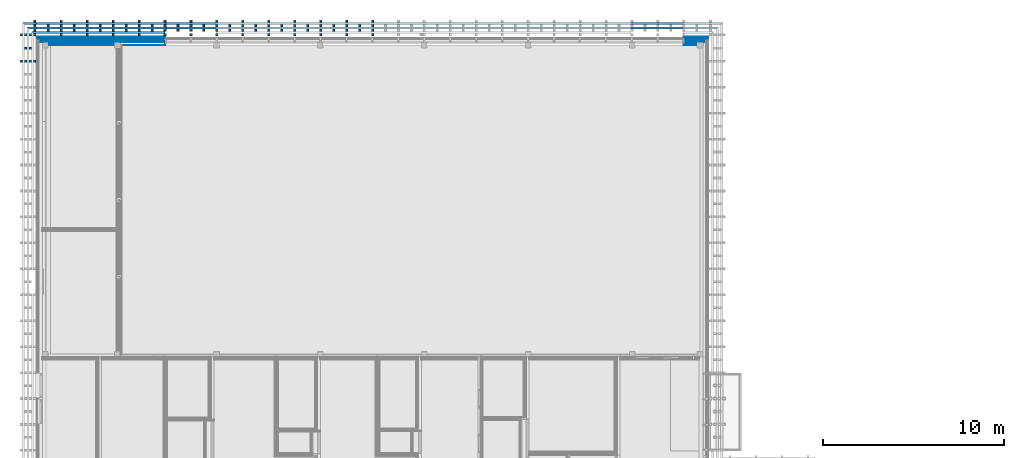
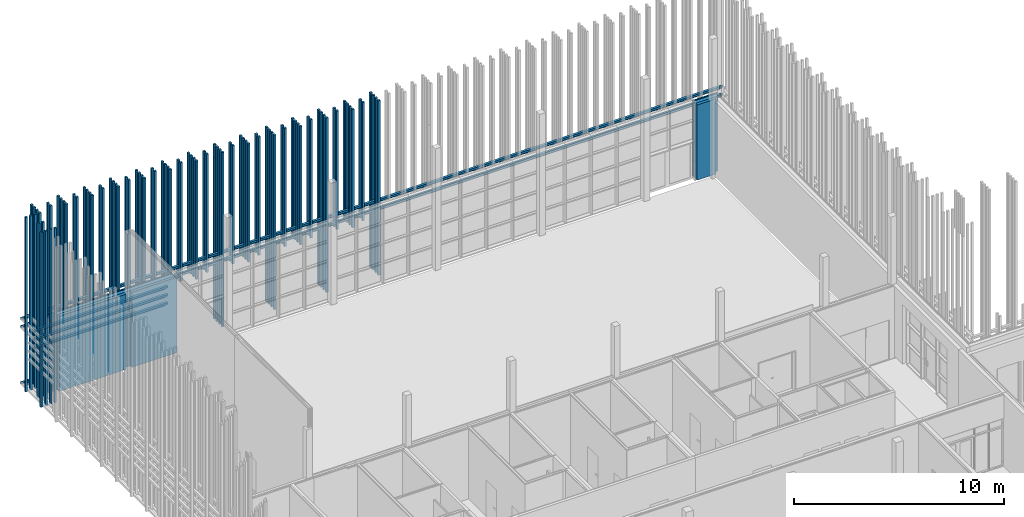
# One storey, part 231 of 260: 36 discrete accessories, 6 building element parts, 1 opening, 1 element without a shape of its own.
"""IFC2X3 building model written with IfcOpenShell, lengths in millimetres."""

from ifc_helpers import new_model, entity, si_unit, converted_unit, derived_unit, money_unit, direction, frame, origin_with_axes, place, context, subcontext, project, spatial, faceted_brep, material, material_list, type_object, element, aggregate, save


model = new_model("IFC2X3")

# Units and contexts
model_context = context("Model", 3, precision=0.01, world=origin_with_axes(), true_north=direction((0.0, 1.0)))
body_context = subcontext(model_context, "Body", "Model", "MODEL_VIEW")
ifc_project = project(units=[si_unit("LENGTHUNIT", "METRE", prefix="MILLI"), si_unit("AREAUNIT", "SQUARE_METRE"), si_unit("VOLUMEUNIT", "CUBIC_METRE"), converted_unit("PLANEANGLEUNIT", "DEGREE", entity("IfcPlaneAngleMeasure", 0.0174532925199), si_unit("PLANEANGLEUNIT", "RADIAN"), dimensions=[0, 0, 0, 0, 0, 0, 0]), money_unit("EUR"), converted_unit("TIMEUNIT", "Year", entity("IfcTimeMeasure", 31556926.0), si_unit("TIMEUNIT", "SECOND"), dimensions=[0, 0, 1, 0, 0, 0, 0]), si_unit("MASSUNIT", "GRAM", prefix="KILO"), si_unit("THERMODYNAMICTEMPERATUREUNIT", "DEGREE_CELSIUS"), si_unit("LUMINOUSINTENSITYUNIT", "LUMEN"), si_unit("ENERGYUNIT", "JOULE", prefix="MEGA"), derived_unit("THERMALCONDUCTANCEUNIT", [(si_unit("POWERUNIT", "WATT"), 1), (si_unit("LENGTHUNIT", "METRE"), -1), (si_unit("THERMODYNAMICTEMPERATUREUNIT", "KELVIN"), -1)]), derived_unit("SPECIFICHEATCAPACITYUNIT", [(si_unit("ENERGYUNIT", "JOULE"), 1), (si_unit("MASSUNIT", "GRAM", prefix="KILO"), -1), (si_unit("THERMODYNAMICTEMPERATUREUNIT", "KELVIN"), -1)]), derived_unit("MASSDENSITYUNIT", [(si_unit("MASSUNIT", "GRAM", prefix="KILO"), 1), (si_unit("VOLUMEUNIT", "CUBIC_METRE"), -1)])], contexts=[model_context])

# Site, building, storey
site_placement = place(None, origin_with_axes())
site = spatial("IfcSite", under=ifc_project, at=site_placement, Name="Kolde pst 67a", CompositionType="ELEMENT")
building_placement = place(site_placement, origin_with_axes())
building = spatial("IfcBuilding", under=site, at=building_placement, Name="Riigigümnaasium", CompositionType="ELEMENT")
storey_placement = place(building_placement, origin_with_axes())
storey = spatial("IfcBuildingStorey", under=building, at=storey_placement, Name="1. korrus", CompositionType="ELEMENT", Elevation=0.0)

# Discrete accessories
ifc_material_1 = material(Name="_VÄLISVIIMISTLUS - sõrmjätkatud puitprussid 120x115mm, liitekohad vähemärgatavad, Platowood sõrmjätkatud kuusk või samaväärne; eeltöödeldud tuletõkkevõõbaga, tuletundlikkus B-s1, d0, Woodsafe Exterior WFX™ või samaväärne; kinnitused vastavalt EK osale")
ifc_material_list_1 = material_list([ifc_material_1, ifc_material_1, ifc_material_1, ifc_material_1])
discrete_accessory_type_1 = type_object("IfcDiscreteAccessoryType", Name="120 4-ne vertikaalne 870 x 115")
for number, where, z_axis, x_axis in (
    (1, (15392.4999347, 84790.0013546, 280.0), (0.0, 0.0, 1.0), (-2.93429595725e-05, -0.999999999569, 0.0)),
    (2, (-309.995745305, 84875.4991965, 280.0), (0.0, 0.0, 1.0), (0.999999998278, -5.86859191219e-05, 0.0)),
    (3, (-310.003213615, 83412.2224198, 280.0), (0.0, 0.0, 1.0), (0.999999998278, -5.86859191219e-05, 0.0)),
    (4, (18252.4999347, 84790.0013546, 280.0), (0.0, 0.0, 1.0), (-2.93429595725e-05, -0.999999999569, 0.0)),
):
    element("IfcDiscreteAccessory", number, at=place(storey_placement, frame(where, z_axis=z_axis, x_axis=x_axis)), inside=storey, type_object=discrete_accessory_type_1, material=ifc_material_list_1, Name="Päikesevarjestus", context=body_context, shape_type="Brep", body=[
        faceted_brep([(-133.0, -70.0, 0.0), (-13.0, -70.0, 0.0), (-13.0, -70.0, 10140.0), (-133.0, -70.0, 10140.0), (-133.0, 45.0, 0.0), (-13.0, 45.0, 0.0), (-13.0, 45.0, 10140.0), (-133.0, 45.0, 10140.0)], [[[0, 1, 2, 3]], [[0, 4, 5, 1]], [[1, 5, 6, 2]], [[3, 2, 6, 7]], [[4, 0, 3, 7]], [[5, 4, 7, 6]]]),
        faceted_brep([(-383.0, -70.0, 0.0), (-263.0, -70.0, 0.0), (-263.0, -70.0, 10140.0), (-383.0, -70.0, 10140.0), (-383.0, 45.0, 0.0), (-263.0, 45.0, 0.0), (-263.0, 45.0, 10140.0), (-383.0, 45.0, 10140.0)], [[[0, 1, 2, 3]], [[0, 4, 5, 1]], [[1, 5, 6, 2]], [[3, 2, 6, 7]], [[4, 0, 3, 7]], [[5, 4, 7, 6]]]),
        faceted_brep([(-633.0, -70.0, 0.0), (-513.0, -70.0, 0.0), (-513.0, -70.0, 10140.0), (-633.0, -70.0, 10140.0), (-633.0, 45.0, 0.0), (-513.0, 45.0, 0.0), (-513.0, 45.0, 10140.0), (-633.0, 45.0, 10140.0)], [[[0, 1, 2, 3]], [[0, 4, 5, 1]], [[1, 5, 6, 2]], [[3, 2, 6, 7]], [[4, 0, 3, 7]], [[5, 4, 7, 6]]]),
        faceted_brep([(-883.0, -70.0, 0.0), (-763.0, -70.0, 0.0), (-763.0, -70.0, 10140.0), (-883.0, -70.0, 10140.0), (-883.0, 45.0, 0.0), (-763.0, 45.0, 0.0), (-763.0, 45.0, 10140.0), (-883.0, 45.0, 10140.0)], [[[0, 1, 2, 3]], [[0, 4, 5, 1]], [[1, 5, 6, 2]], [[3, 2, 6, 7]], [[4, 0, 3, 7]], [[5, 4, 7, 6]]]),
    ])
for number, where, z_axis, x_axis in (
    (5, (16822.4999347, 84790.0013546, 3540.00014213), (0.0, 0.0, 1.0), (-2.93429595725e-05, -0.999999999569, 0.0)),
    (6, (13962.4999777, 84790.0013546, 3540.00014213), (0.0, 0.0, 1.0), (-2.93429595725e-05, -0.999999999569, 0.0)),
):
    element("IfcDiscreteAccessory", number, at=place(storey_placement, frame(where, z_axis=z_axis, x_axis=x_axis)), inside=storey, type_object=discrete_accessory_type_1, material=ifc_material_list_1, Name="Päikesevarjestus", context=body_context, shape_type="Brep", body=[
        faceted_brep([(-133.0, -70.0, 0.0), (-13.0, -70.0, 0.0), (-13.0, -70.0, 6879.99985787), (-133.0, -70.0, 6879.99985787), (-133.0, 45.0, 0.0), (-13.0, 45.0, 0.0), (-13.0, 45.0, 6879.99985787), (-133.0, 45.0, 6879.99985787)], [[[0, 1, 2, 3]], [[0, 4, 5, 1]], [[1, 5, 6, 2]], [[3, 2, 6, 7]], [[4, 0, 3, 7]], [[5, 4, 7, 6]]]),
        faceted_brep([(-383.0, -70.0, 0.0), (-263.0, -70.0, 0.0), (-263.0, -70.0, 6879.99985787), (-383.0, -70.0, 6879.99985787), (-383.0, 45.0, 0.0), (-263.0, 45.0, 0.0), (-263.0, 45.0, 6879.99985787), (-383.0, 45.0, 6879.99985787)], [[[0, 1, 2, 3]], [[0, 4, 5, 1]], [[1, 5, 6, 2]], [[3, 2, 6, 7]], [[4, 0, 3, 7]], [[5, 4, 7, 6]]]),
        faceted_brep([(-633.0, -70.0, 0.0), (-513.0, -70.0, 0.0), (-513.0, -70.0, 6879.99985787), (-633.0, -70.0, 6879.99985787), (-633.0, 45.0, 0.0), (-513.0, 45.0, 0.0), (-513.0, 45.0, 6879.99985787), (-633.0, 45.0, 6879.99985787)], [[[0, 1, 2, 3]], [[0, 4, 5, 1]], [[1, 5, 6, 2]], [[3, 2, 6, 7]], [[4, 0, 3, 7]], [[5, 4, 7, 6]]]),
        faceted_brep([(-883.0, -70.0, 0.0), (-763.0, -70.0, 0.0), (-763.0, -70.0, 6879.99985787), (-883.0, -70.0, 6879.99985787), (-883.0, 45.0, 0.0), (-763.0, 45.0, 0.0), (-763.0, 45.0, 6879.99985787), (-883.0, 45.0, 6879.99985787)], [[[0, 1, 2, 3]], [[0, 4, 5, 1]], [[1, 5, 6, 2]], [[3, 2, 6, 7]], [[4, 0, 3, 7]], [[5, 4, 7, 6]]]),
    ])
discrete_accessory_1_placement = place(storey_placement, frame((12532.5000206, 84790.0013546, 280.0), z_axis=(0.0, 0.0, 1.0), x_axis=(-2.93429595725e-05, -0.999999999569, 0.0)))
element("IfcDiscreteAccessory", 7, at=discrete_accessory_1_placement, inside=storey, type_object=discrete_accessory_type_1, material=ifc_material_list_1, Name="Päikesevarjestus", context=body_context, shape_type="Brep", body=[
    faceted_brep([(-133.0, -70.0, 0.0), (-13.0, -70.0, 0.0), (-13.0, -70.0, 10140.0), (-133.0, -70.0, 10140.0), (-133.0, 45.0, 0.0), (-13.0, 45.0, 0.0), (-13.0, 45.0, 10140.0), (-133.0, 45.0, 10140.0)], [[[0, 1, 2, 3]], [[0, 4, 5, 1]], [[1, 5, 6, 2]], [[3, 2, 6, 7]], [[4, 0, 3, 7]], [[5, 4, 7, 6]]]),
    faceted_brep([(-383.0, -70.0, 0.0), (-263.0, -70.0, 0.0), (-263.0, -70.0, 10140.0), (-383.0, -70.0, 10140.0), (-383.0, 45.0, 0.0), (-263.0, 45.0, 0.0), (-263.0, 45.0, 10140.0), (-383.0, 45.0, 10140.0)], [[[0, 1, 2, 3]], [[0, 4, 5, 1]], [[1, 5, 6, 2]], [[3, 2, 6, 7]], [[4, 0, 3, 7]], [[5, 4, 7, 6]]]),
    faceted_brep([(-633.0, -70.0, 0.0), (-513.0, -70.0, 0.0), (-513.0, -70.0, 10140.0), (-633.0, -70.0, 10140.0), (-633.0, 45.0, 0.0), (-513.0, 45.0, 0.0), (-513.0, 45.0, 10140.0), (-633.0, 45.0, 10140.0)], [[[0, 1, 2, 3]], [[0, 4, 5, 1]], [[1, 5, 6, 2]], [[3, 2, 6, 7]], [[4, 0, 3, 7]], [[5, 4, 7, 6]]]),
    faceted_brep([(-883.0, -70.0, 0.0), (-763.0, -70.0, 0.0), (-763.0, -70.0, 10140.0), (-883.0, -70.0, 10140.0), (-883.0, 45.0, 0.0), (-763.0, 45.0, 0.0), (-763.0, 45.0, 10140.0), (-883.0, 45.0, 10140.0)], [[[0, 1, 2, 3]], [[0, 4, 5, 1]], [[1, 5, 6, 2]], [[3, 2, 6, 7]], [[4, 0, 3, 7]], [[5, 4, 7, 6]]]),
])
discrete_accessory_2_placement = place(storey_placement, frame((11102.5000206, 84790.0013546, 3540.00014213), z_axis=(0.0, 0.0, 1.0), x_axis=(-2.93429595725e-05, -0.999999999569, 0.0)))
element("IfcDiscreteAccessory", 8, at=discrete_accessory_2_placement, inside=storey, type_object=discrete_accessory_type_1, material=ifc_material_list_1, Name="Päikesevarjestus", context=body_context, shape_type="Brep", body=[
    faceted_brep([(-133.0, -70.0, 0.0), (-13.0, -70.0, 0.0), (-13.0, -70.0, 6879.99985787), (-133.0, -70.0, 6879.99985787), (-133.0, 45.0, 0.0), (-13.0, 45.0, 0.0), (-13.0, 45.0, 6879.99985787), (-133.0, 45.0, 6879.99985787)], [[[0, 1, 2, 3]], [[0, 4, 5, 1]], [[1, 5, 6, 2]], [[3, 2, 6, 7]], [[4, 0, 3, 7]], [[5, 4, 7, 6]]]),
    faceted_brep([(-383.0, -70.0, 0.0), (-263.0, -70.0, 0.0), (-263.0, -70.0, 6879.99985787), (-383.0, -70.0, 6879.99985787), (-383.0, 45.0, 0.0), (-263.0, 45.0, 0.0), (-263.0, 45.0, 6879.99985787), (-383.0, 45.0, 6879.99985787)], [[[0, 1, 2, 3]], [[0, 4, 5, 1]], [[1, 5, 6, 2]], [[3, 2, 6, 7]], [[4, 0, 3, 7]], [[5, 4, 7, 6]]]),
    faceted_brep([(-633.0, -70.0, 0.0), (-513.0, -70.0, 0.0), (-513.0, -70.0, 6879.99985787), (-633.0, -70.0, 6879.99985787), (-633.0, 45.0, 0.0), (-513.0, 45.0, 0.0), (-513.0, 45.0, 6879.99985787), (-633.0, 45.0, 6879.99985787)], [[[0, 1, 2, 3]], [[0, 4, 5, 1]], [[1, 5, 6, 2]], [[3, 2, 6, 7]], [[4, 0, 3, 7]], [[5, 4, 7, 6]]]),
    faceted_brep([(-883.0, -70.0, 0.0), (-763.0, -70.0, 0.0), (-763.0, -70.0, 6879.99985787), (-883.0, -70.0, 6879.99985787), (-883.0, 45.0, 0.0), (-763.0, 45.0, 0.0), (-763.0, 45.0, 6879.99985787), (-883.0, 45.0, 6879.99985787)], [[[0, 1, 2, 3]], [[0, 4, 5, 1]], [[1, 5, 6, 2]], [[3, 2, 6, 7]], [[4, 0, 3, 7]], [[5, 4, 7, 6]]]),
])
discrete_accessory_3_placement = place(storey_placement, frame((9672.50025223, 84790.0013546, 280.0), z_axis=(0.0, 0.0, 1.0), x_axis=(-2.93429595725e-05, -0.999999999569, 0.0)))
element("IfcDiscreteAccessory", 9, at=discrete_accessory_3_placement, inside=storey, type_object=discrete_accessory_type_1, material=ifc_material_list_1, Name="Päikesevarjestus", context=body_context, shape_type="Brep", body=[
    faceted_brep([(-133.0, -70.0, 0.0), (-13.0, -70.0, 0.0), (-13.0, -70.0, 10140.0), (-133.0, -70.0, 10140.0), (-133.0, 45.0, 0.0), (-13.0, 45.0, 0.0), (-13.0, 45.0, 10140.0), (-133.0, 45.0, 10140.0)], [[[0, 1, 2, 3]], [[0, 4, 5, 1]], [[1, 5, 6, 2]], [[3, 2, 6, 7]], [[4, 0, 3, 7]], [[5, 4, 7, 6]]]),
    faceted_brep([(-383.0, -70.0, 0.0), (-263.0, -70.0, 0.0), (-263.0, -70.0, 10140.0), (-383.0, -70.0, 10140.0), (-383.0, 45.0, 0.0), (-263.0, 45.0, 0.0), (-263.0, 45.0, 10140.0), (-383.0, 45.0, 10140.0)], [[[0, 1, 2, 3]], [[0, 4, 5, 1]], [[1, 5, 6, 2]], [[3, 2, 6, 7]], [[4, 0, 3, 7]], [[5, 4, 7, 6]]]),
    faceted_brep([(-633.0, -70.0, 0.0), (-513.0, -70.0, 0.0), (-513.0, -70.0, 10140.0), (-633.0, -70.0, 10140.0), (-633.0, 45.0, 0.0), (-513.0, 45.0, 0.0), (-513.0, 45.0, 10140.0), (-633.0, 45.0, 10140.0)], [[[0, 1, 2, 3]], [[0, 4, 5, 1]], [[1, 5, 6, 2]], [[3, 2, 6, 7]], [[4, 0, 3, 7]], [[5, 4, 7, 6]]]),
    faceted_brep([(-883.0, -70.0, 0.0), (-763.0, -70.0, 0.0), (-763.0, -70.0, 10140.0), (-883.0, -70.0, 10140.0), (-883.0, 45.0, 0.0), (-763.0, 45.0, 0.0), (-763.0, 45.0, 10140.0), (-883.0, 45.0, 10140.0)], [[[0, 1, 2, 3]], [[0, 4, 5, 1]], [[1, 5, 6, 2]], [[3, 2, 6, 7]], [[4, 0, 3, 7]], [[5, 4, 7, 6]]]),
])
discrete_accessory_4_placement = place(storey_placement, frame((8242.50026815, 84790.0013546, 3540.00014213), z_axis=(0.0, 0.0, 1.0), x_axis=(-2.93429595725e-05, -0.999999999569, 0.0)))
element("IfcDiscreteAccessory", 10, at=discrete_accessory_4_placement, inside=storey, type_object=discrete_accessory_type_1, material=ifc_material_list_1, Name="Päikesevarjestus", context=body_context, shape_type="Brep", body=[
    faceted_brep([(-133.0, -70.0, 0.0), (-13.0, -70.0, 0.0), (-13.0, -70.0, 6879.99985787), (-133.0, -70.0, 6879.99985787), (-133.0, 45.0, 0.0), (-13.0, 45.0, 0.0), (-13.0, 45.0, 6879.99985787), (-133.0, 45.0, 6879.99985787)], [[[0, 1, 2, 3]], [[0, 4, 5, 1]], [[1, 5, 6, 2]], [[3, 2, 6, 7]], [[4, 0, 3, 7]], [[5, 4, 7, 6]]]),
    faceted_brep([(-383.0, -70.0, 0.0), (-263.0, -70.0, 0.0), (-263.0, -70.0, 6879.99985787), (-383.0, -70.0, 6879.99985787), (-383.0, 45.0, 0.0), (-263.0, 45.0, 0.0), (-263.0, 45.0, 6879.99985787), (-383.0, 45.0, 6879.99985787)], [[[0, 1, 2, 3]], [[0, 4, 5, 1]], [[1, 5, 6, 2]], [[3, 2, 6, 7]], [[4, 0, 3, 7]], [[5, 4, 7, 6]]]),
    faceted_brep([(-633.0, -70.0, 0.0), (-513.0, -70.0, 0.0), (-513.0, -70.0, 6879.99985787), (-633.0, -70.0, 6879.99985787), (-633.0, 45.0, 0.0), (-513.0, 45.0, 0.0), (-513.0, 45.0, 6879.99985787), (-633.0, 45.0, 6879.99985787)], [[[0, 1, 2, 3]], [[0, 4, 5, 1]], [[1, 5, 6, 2]], [[3, 2, 6, 7]], [[4, 0, 3, 7]], [[5, 4, 7, 6]]]),
    faceted_brep([(-883.0, -70.0, 0.0), (-763.0, -70.0, 0.0), (-763.0, -70.0, 6879.99985787), (-883.0, -70.0, 6879.99985787), (-883.0, 45.0, 0.0), (-763.0, 45.0, 0.0), (-763.0, 45.0, 6879.99985787), (-883.0, 45.0, 6879.99985787)], [[[0, 1, 2, 3]], [[0, 4, 5, 1]], [[1, 5, 6, 2]], [[3, 2, 6, 7]], [[4, 0, 3, 7]], [[5, 4, 7, 6]]]),
])
for number, where, z_axis, x_axis in (
    (11, (6812.50027157, 84790.0013546, 280.0), (0.0, 0.0, 1.0), (-2.93429595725e-05, -0.999999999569, 0.0)),
    (12, (5382.50027157, 84790.0013546, 280.0), (0.0, 0.0, 1.0), (-2.93429595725e-05, -0.999999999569, 0.0)),
    (13, (3952.50027096, 84790.0013546, 280.0), (0.0, 0.0, 1.0), (-2.93429595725e-05, -0.999999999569, 0.0)),
    (14, (2522.50027035, 84790.0013546, 280.0), (0.0, 0.0, 1.0), (-2.93429595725e-05, -0.999999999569, 0.0)),
    (15, (1092.50027298, 84790.0013546, 280.0), (0.0, 0.0, 1.0), (-2.93429595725e-05, -0.999999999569, 0.0)),
):
    element("IfcDiscreteAccessory", number, at=place(storey_placement, frame(where, z_axis=z_axis, x_axis=x_axis)), inside=storey, type_object=discrete_accessory_type_1, material=ifc_material_list_1, Name="Päikesevarjestus", context=body_context, shape_type="Brep", body=[
        faceted_brep([(-133.0, -70.0, 0.0), (-13.0, -70.0, 0.0), (-13.0, -70.0, 10140.0), (-133.0, -70.0, 10140.0), (-133.0, 45.0, 0.0), (-13.0, 45.0, 0.0), (-13.0, 45.0, 10140.0), (-133.0, 45.0, 10140.0)], [[[0, 1, 2, 3]], [[0, 4, 5, 1]], [[1, 5, 6, 2]], [[3, 2, 6, 7]], [[4, 0, 3, 7]], [[5, 4, 7, 6]]]),
        faceted_brep([(-383.0, -70.0, 0.0), (-263.0, -70.0, 0.0), (-263.0, -70.0, 10140.0), (-383.0, -70.0, 10140.0), (-383.0, 45.0, 0.0), (-263.0, 45.0, 0.0), (-263.0, 45.0, 10140.0), (-383.0, 45.0, 10140.0)], [[[0, 1, 2, 3]], [[0, 4, 5, 1]], [[1, 5, 6, 2]], [[3, 2, 6, 7]], [[4, 0, 3, 7]], [[5, 4, 7, 6]]]),
        faceted_brep([(-633.0, -70.0, 0.0), (-513.0, -70.0, 0.0), (-513.0, -70.0, 10140.0), (-633.0, -70.0, 10140.0), (-633.0, 45.0, 0.0), (-513.0, 45.0, 0.0), (-513.0, 45.0, 10140.0), (-633.0, 45.0, 10140.0)], [[[0, 1, 2, 3]], [[0, 4, 5, 1]], [[1, 5, 6, 2]], [[3, 2, 6, 7]], [[4, 0, 3, 7]], [[5, 4, 7, 6]]]),
        faceted_brep([(-883.0, -70.0, 0.0), (-763.0, -70.0, 0.0), (-763.0, -70.0, 10140.0), (-883.0, -70.0, 10140.0), (-883.0, 45.0, 0.0), (-763.0, 45.0, 0.0), (-763.0, 45.0, 10140.0), (-883.0, 45.0, 10140.0)], [[[0, 1, 2, 3]], [[0, 4, 5, 1]], [[1, 5, 6, 2]], [[3, 2, 6, 7]], [[4, 0, 3, 7]], [[5, 4, 7, 6]]]),
    ])
ifc_material_list_2 = material_list([ifc_material_1, ifc_material_1, ifc_material_1])
discrete_accessory_type_2 = type_object("IfcDiscreteAccessoryType", Name="120 4-ne vertikaalne -1 nurgaribi 620 x 115")
discrete_accessory_5_placement = place(storey_placement, frame((-372.500382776, 84790.0013533, 280.0), z_axis=(0.0, 0.0, 1.0), x_axis=(-2.93429595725e-05, -0.999999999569, 0.0)))
element("IfcDiscreteAccessory", 16, at=discrete_accessory_5_placement, inside=storey, type_object=discrete_accessory_type_2, material=ifc_material_list_2, Name="Päikesevarjestus", context=body_context, shape_type="Brep", body=[
    faceted_brep([(-383.0, -70.0, 0.0), (-263.0, -70.0, 0.0), (-263.0, -70.0, 10140.0), (-383.0, -70.0, 10140.0), (-383.0, 45.0, 0.0), (-263.0, 45.0, 0.0), (-263.0, 45.0, 10140.0), (-383.0, 45.0, 10140.0)], [[[0, 1, 2, 3]], [[0, 4, 5, 1]], [[1, 5, 6, 2]], [[3, 2, 6, 7]], [[4, 0, 3, 7]], [[5, 4, 7, 6]]]),
    faceted_brep([(-633.0, -70.0, 0.0), (-513.0, -70.0, 0.0), (-513.0, -70.0, 10140.0), (-633.0, -70.0, 10140.0), (-633.0, 45.0, 0.0), (-513.0, 45.0, 0.0), (-513.0, 45.0, 10140.0), (-633.0, 45.0, 10140.0)], [[[0, 1, 2, 3]], [[0, 4, 5, 1]], [[1, 5, 6, 2]], [[3, 2, 6, 7]], [[4, 0, 3, 7]], [[5, 4, 7, 6]]]),
    faceted_brep([(-883.0, -70.0, 0.0), (-763.0, -70.0, 0.0), (-763.0, -70.0, 10140.0), (-883.0, -70.0, 10140.0), (-883.0, 45.0, 0.0), (-763.0, 45.0, 0.0), (-763.0, 45.0, 10140.0), (-883.0, 45.0, 10140.0)], [[[0, 1, 2, 3]], [[0, 4, 5, 1]], [[1, 5, 6, 2]], [[3, 2, 6, 7]], [[4, 0, 3, 7]], [[5, 4, 7, 6]]]),
])
discrete_accessory_type_3 = type_object("IfcDiscreteAccessoryType", Name="120 1+paiksekaitse 3 tk  620 x 115")
discrete_accessory_6_placement = place(storey_placement, frame((6812.50027157, 84803.0058687, 352.5), z_axis=(0.0, 0.0, 1.0), x_axis=(9.71150589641e-07, 1.0, 0.0)))
element("IfcDiscreteAccessory", 17, at=discrete_accessory_6_placement, inside=storey, type_object=discrete_accessory_type_3, material=ifc_material_list_2, Name="Päikesevarjestus", context=body_context, shape_type="Brep", body=[
    faceted_brep([(625.0, 7760.50046758, 45.0), (625.0, 0.0, 45.0), (745.0, 0.0, 45.0), (745.0, 7880.50058412, 45.0), (625.0, 7760.50046758, -70.0), (625.0, 0.0, -70.0), (745.0, 0.0, -70.0), (745.0, 7880.50058412, -70.0)], [[[0, 1, 2, 3]], [[4, 5, 1, 0]], [[5, 6, 2, 1]], [[3, 2, 6, 7]], [[4, 0, 3, 7]], [[7, 6, 5, 4]]]),
    faceted_brep([(375.0, 7510.50022479, 45.0), (375.0, 0.0, 45.0), (495.0, 0.0, 45.0), (495.0, 7630.50034133, 45.0), (375.0, 7510.50022479, -70.0), (375.0, 0.0, -70.0), (495.0, 0.0, -70.0), (495.0, 7630.50034133, -70.0)], [[[0, 1, 2, 3]], [[4, 5, 1, 0]], [[5, 6, 2, 1]], [[3, 2, 6, 7]], [[4, 0, 3, 7]], [[7, 6, 5, 4]]]),
    faceted_brep([(125.0, 7260.499982, 45.0), (125.0, 0.0, 45.0), (245.0, 0.0, 45.0), (245.0, 7380.50009854, 45.0), (125.0, 7260.499982, -70.0), (125.0, 0.0, -70.0), (245.0, 0.0, -70.0), (245.0, 7380.50009854, -70.0)], [[[0, 1, 2, 3]], [[4, 5, 1, 0]], [[5, 6, 2, 1]], [[3, 2, 6, 7]], [[4, 0, 3, 7]], [[7, 6, 5, 4]]]),
])
ifc_material_list_3 = material_list([ifc_material_1, ifc_material_1])
discrete_accessory_type_4 = type_object("IfcDiscreteAccessoryType", Name="1+paiksekaitse 4 tk nihkes 2 370 x 355")
discrete_accessory_7_placement = place(storey_placement, frame((36802.4157539, 84802.9999557, 3540.00014213), z_axis=(0.0, 0.0, 1.0), x_axis=(1.89286967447e-07, 1.0, 0.0)))
element("IfcDiscreteAccessory", 18, at=discrete_accessory_7_placement, inside=storey, type_object=discrete_accessory_type_4, material=ifc_material_list_3, Name="Päikesevarjestus", context=body_context, shape_type="Brep", body=[
    faceted_brep([(375.0, 37500.4153379, 347.001360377), (375.0, -374.990379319, 347.001360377), (495.0, -494.987300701, 357.5), (495.0, 37620.4153379, 357.5), (375.0, 37500.4153379, 242.5), (375.0, -374.990379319, 242.5), (495.0, -494.987300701, 242.5), (495.0, 37620.4153379, 242.5)], [[[0, 1, 2, 3]], [[4, 5, 1, 0]], [[5, 6, 2, 1]], [[3, 2, 6, 7]], [[4, 0, 3, 7]], [[7, 6, 5, 4]]]),
    faceted_brep([(625.0, 37750.4153379, 107.001360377), (625.0, -624.983965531, 107.001360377), (745.0, -744.980886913, 117.5), (745.0, 37870.4153379, 117.5), (625.0, 37750.4153379, 2.5), (625.0, -624.983965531, 2.5), (745.0, -744.980886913, 2.5), (745.0, 37870.4153379, 2.5)], [[[0, 1, 2, 3]], [[4, 5, 1, 0]], [[5, 6, 2, 1]], [[3, 2, 6, 7]], [[4, 0, 3, 7]], [[7, 6, 5, 4]]]),
])
discrete_accessory_8_placement = place(storey_placement, frame((36802.4157359, 84802.9999557, 4020.00014213), z_axis=(0.0, 0.0, 1.0), x_axis=(1.89286966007e-07, 1.0, 0.0)))
element("IfcDiscreteAccessory", 19, at=discrete_accessory_8_placement, inside=storey, type_object=discrete_accessory_type_4, material=ifc_material_list_3, Name="Päikesevarjestus", context=body_context, shape_type="Brep", body=[
    faceted_brep([(375.0, 37500.41532, 347.001360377), (375.0, -374.990379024, 347.001360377), (495.0, -494.987300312, 357.5), (495.0, 37620.4153199, 357.5), (375.0, 37500.41532, 242.5), (375.0, -374.990379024, 242.5), (495.0, -494.987300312, 242.5), (495.0, 37620.4153199, 242.5)], [[[0, 1, 2, 3]], [[4, 5, 1, 0]], [[5, 6, 2, 1]], [[3, 2, 6, 7]], [[4, 0, 3, 7]], [[7, 6, 5, 4]]]),
    faceted_brep([(625.0, 37750.4153199, 107.001360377), (625.0, -624.98396504, 107.001360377), (745.0, -744.980886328, 117.5), (745.0, 37870.4153199, 117.5), (625.0, 37750.4153199, 2.5), (625.0, -624.98396504, 2.5), (745.0, -744.980886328, 2.5), (745.0, 37870.4153199, 2.5)], [[[0, 1, 2, 3]], [[4, 5, 1, 0]], [[5, 6, 2, 1]], [[3, 2, 6, 7]], [[4, 0, 3, 7]], [[7, 6, 5, 4]]]),
])
for number, where, z_axis, x_axis in (
    (20, (6860.02601671, 84803.0056234, 2100.00014213), (0.0, 0.0, 1.0), (1.89286968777e-07, 1.0, 0.0)),
    (21, (6860.02601671, 84803.0056234, 2580.00014213), (0.0, 0.0, 1.0), (1.89286968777e-07, 1.0, 0.0)),
    (22, (6860.02601671, 84803.0056234, 3060.00014213), (0.0, 0.0, 1.0), (1.89286968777e-07, 1.0, 0.0)),
):
    element("IfcDiscreteAccessory", number, at=place(storey_placement, frame(where, z_axis=z_axis, x_axis=x_axis)), inside=storey, type_object=discrete_accessory_type_4, material=ifc_material_list_3, Name="Päikesevarjestus", context=body_context, shape_type="Brep", body=[
        faceted_brep([(375.0, 7150.02560707, 347.001360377), (375.0, 0.0, 347.001360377), (495.0, 0.0, 357.5), (495.0, 7150.02560707, 357.5), (375.0, 7150.02560707, 242.5), (375.0, 0.0, 242.5), (495.0, 0.0, 242.5), (495.0, 7150.02560707, 242.5)], [[[0, 1, 2, 3]], [[4, 5, 1, 0]], [[5, 6, 2, 1]], [[3, 2, 6, 7]], [[4, 0, 3, 7]], [[7, 6, 5, 4]]]),
        faceted_brep([(625.0, 7150.02560707, 107.001360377), (625.0, 0.0, 107.001360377), (745.0, 0.0, 117.5), (745.0, 7150.02560707, 117.5), (625.0, 7150.02560707, 2.5), (625.0, 0.0, 2.5), (745.0, 0.0, 2.5), (745.0, 7150.02560707, 2.5)], [[[0, 1, 2, 3]], [[4, 5, 1, 0]], [[5, 6, 2, 1]], [[3, 2, 6, 7]], [[4, 0, 3, 7]], [[7, 6, 5, 4]]]),
    ])
discrete_accessory_type_5 = type_object("IfcDiscreteAccessoryType", Name="1+paiksekaitse 3 370 x 115")
for number, where, z_axis, x_axis in (
    (23, (17465.0181274, 85770.0034817, 3540.00014213), (0.0, 0.0, 1.0), (0.0, -1.0, 0.0)),
    (24, (16035.0181274, 85770.0034817, 3540.00014213), (0.0, 0.0, 1.0), (0.0, -1.0, 0.0)),
    (25, (14605.0156861, 85770.0034817, 3540.00014213), (0.0, 0.0, 1.0), (0.0, -1.0, 0.0)),
    (26, (13175.0156861, 85770.0034817, 3540.00014213), (0.0, 0.0, 1.0), (0.0, -1.0, 0.0)),
    (27, (11745.0156861, 85770.0034817, 3540.00014213), (0.0, 0.0, 1.0), (0.0, -1.0, 0.0)),
    (28, (10315.0156861, 85770.0034817, 3540.00014213), (0.0, 0.0, 1.0), (0.0, -1.0, 0.0)),
    (29, (8885.01568607, 85770.0034817, 3540.00014213), (0.0, 0.0, 1.0), (0.0, -1.0, 0.0)),
    (30, (7455.01568607, 85770.0034817, 3540.00014213), (0.0, 0.0, 1.0), (0.0, -1.0, 0.0)),
):
    element("IfcDiscreteAccessory", number, at=place(storey_placement, frame(where, z_axis=z_axis, x_axis=x_axis)), inside=storey, type_object=discrete_accessory_type_5, material=ifc_material_list_3, Name="Päikesevarjestus", context=body_context, shape_type="Brep", body=[
        faceted_brep([(467.0, 117.5, 0.0), (347.0, 117.5, 0.0), (347.0, 117.5, 6879.99985787), (467.0, 117.5, 6879.99985787), (467.0, 2.5, 0.0), (347.0, 2.5, 0.0), (347.0, 2.5, 6879.99985787), (467.0, 2.5, 6879.99985787)], [[[0, 1, 2, 3]], [[0, 4, 5, 1]], [[1, 5, 6, 2]], [[3, 2, 6, 7]], [[4, 0, 3, 7]], [[5, 4, 7, 6]]]),
        faceted_brep([(717.0, 117.5, 0.0), (597.0, 117.5, 0.0), (597.0, 117.5, 6879.99985787), (717.0, 117.5, 6879.99985787), (717.0, 2.5, 0.0), (597.0, 2.5, 0.0), (597.0, 2.5, 6879.99985787), (717.0, 2.5, 6879.99985787)], [[[0, 1, 2, 3]], [[0, 4, 5, 1]], [[1, 5, 6, 2]], [[3, 2, 6, 7]], [[4, 0, 3, 7]], [[5, 4, 7, 6]]]),
    ])
for number, where, z_axis, x_axis in (
    (31, (6025.01568607, 85770.0034817, 279.01119851), (0.0, 0.0, 1.0), (0.0, -1.0, 0.0)),
    (32, (4595.00790213, 85769.9999607, 279.01119851), (0.0, 0.0, 1.0), (0.0, -1.0, 0.0)),
    (33, (3165.00790213, 85769.9999607, 279.01119851), (0.0, 0.0, 1.0), (0.0, -1.0, 0.0)),
):
    element("IfcDiscreteAccessory", number, at=place(storey_placement, frame(where, z_axis=z_axis, x_axis=x_axis)), inside=storey, type_object=discrete_accessory_type_5, material=ifc_material_list_3, Name="Päikesevarjestus", context=body_context, shape_type="Brep", body=[
        faceted_brep([(467.0, 117.5, 0.0), (347.0, 117.5, 0.0), (347.0, 117.5, 10140.9888015), (467.0, 117.5, 10140.9888015), (467.0, 2.5, 0.0), (347.0, 2.5, 0.0), (347.0, 2.5, 10140.9888015), (467.0, 2.5, 10140.9888015)], [[[0, 1, 2, 3]], [[0, 4, 5, 1]], [[1, 5, 6, 2]], [[3, 2, 6, 7]], [[4, 0, 3, 7]], [[5, 4, 7, 6]]]),
        faceted_brep([(717.0, 117.5, 0.0), (597.0, 117.5, 0.0), (597.0, 117.5, 10140.9888015), (717.0, 117.5, 10140.9888015), (717.0, 2.5, 0.0), (597.0, 2.5, 0.0), (597.0, 2.5, 10140.9888015), (717.0, 2.5, 10140.9888015)], [[[0, 1, 2, 3]], [[0, 4, 5, 1]], [[1, 5, 6, 2]], [[3, 2, 6, 7]], [[4, 0, 3, 7]], [[5, 4, 7, 6]]]),
    ])
for number, where, z_axis, x_axis in (
    (34, (1735.00790213, 85769.9999607, 280.0), (0.0, 0.0, 1.0), (0.0, -1.0, 0.0)),
    (35, (305.007902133, 85769.9999607, 280.0), (0.0, 0.0, 1.0), (0.0, -1.0, 0.0)),
):
    element("IfcDiscreteAccessory", number, at=place(storey_placement, frame(where, z_axis=z_axis, x_axis=x_axis)), inside=storey, type_object=discrete_accessory_type_5, material=ifc_material_list_3, Name="Päikesevarjestus", context=body_context, shape_type="Brep", body=[
        faceted_brep([(467.0, 117.5, 0.0), (347.0, 117.5, 0.0), (347.0, 117.5, 10140.0), (467.0, 117.5, 10140.0), (467.0, 2.5, 0.0), (347.0, 2.5, 0.0), (347.0, 2.5, 10140.0), (467.0, 2.5, 10140.0)], [[[0, 1, 2, 3]], [[0, 4, 5, 1]], [[1, 5, 6, 2]], [[3, 2, 6, 7]], [[4, 0, 3, 7]], [[5, 4, 7, 6]]]),
        faceted_brep([(717.0, 117.5, 0.0), (597.0, 117.5, 0.0), (597.0, 117.5, 10140.0), (717.0, 117.5, 10140.0), (717.0, 2.5, 0.0), (597.0, 2.5, 0.0), (597.0, 2.5, 10140.0), (717.0, 2.5, 10140.0)], [[[0, 1, 2, 3]], [[0, 4, 5, 1]], [[1, 5, 6, 2]], [[3, 2, 6, 7]], [[4, 0, 3, 7]], [[5, 4, 7, 6]]]),
    ])
discrete_accessory_9_placement = place(storey_placement, frame((-1290.00042497, 84054.758805, 280.0), z_axis=(0.0, 0.0, 1.0), x_axis=(1.0, 0.0, 0.0)))
element("IfcDiscreteAccessory", 36, at=discrete_accessory_9_placement, inside=storey, type_object=discrete_accessory_type_5, material=ifc_material_list_3, Name="Päikesevarjestus", context=body_context, shape_type="Brep", body=[
    faceted_brep([(467.0, 117.5, 0.0), (347.0, 117.5, 0.0), (347.0, 117.5, 10140.0), (467.0, 117.5, 10140.0), (467.0, 2.5, 0.0), (347.0, 2.5, 0.0), (347.0, 2.5, 10140.0), (467.0, 2.5, 10140.0)], [[[0, 1, 2, 3]], [[0, 4, 5, 1]], [[1, 5, 6, 2]], [[3, 2, 6, 7]], [[4, 0, 3, 7]], [[5, 4, 7, 6]]]),
    faceted_brep([(717.0, 117.5, 0.0), (597.0, 117.5, 0.0), (597.0, 117.5, 10140.0), (717.0, 117.5, 10140.0), (717.0, 2.5, 0.0), (597.0, 2.50000000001, 0.0), (597.0, 2.50000000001, 10140.0), (717.0, 2.5, 10140.0)], [[[0, 1, 2, 3]], [[0, 4, 5, 1]], [[1, 5, 6, 2]], [[3, 2, 6, 7]], [[4, 0, 3, 7]], [[5, 4, 7, 6]]]),
])

# Wall, opening, building element parts
wall_type = type_object("IfcWallType", Name="VS-CLT-16/1_soojust 200+laudis 472", PredefinedType="NOTDEFINED")
wall_placement = place(storey_placement, frame((36439.99923, 84439.9999608, 100.0), z_axis=(0.0, 0.0, 1.0), x_axis=(-1.0, 0.0, 0.0)))
wall = element("IfcWall", 37, at=wall_placement, inside=storey, type_object=wall_type, Name="Välissein")
opening_placement = place(wall_placement, frame((15333.7489361, 0.0, -100.0), z_axis=(0.0, 0.0, 1.0), x_axis=(1.0, 0.0, 0.0)))
element("IfcOpeningElement", 38, at=opening_placement, cuts=wall, Name="Ava", context=body_context, shape_type="Brep", body=[
    faceted_brep([(-14293.7500223, -944.0, 0.0), (-14293.7500223, -944.0, 4920.0), (-14293.7500223, 472.0, 4920.0), (-14293.7500223, 472.0, 0.0), (14293.7500223, -944.0, 0.0), (14293.7500223, -944.0, 4920.0), (14293.7500223, 472.0, 4920.0), (14293.7500223, 472.0, 0.0)], [[[0, 1, 2, 3]], [[0, 4, 5, 1]], [[1, 5, 6, 2]], [[3, 2, 6, 7]], [[4, 0, 3, 7]], [[5, 4, 7, 6]]]),
])
ifc_material_2 = material(Name="_KANDETARIND - CLT ristkihtliimpuit vastavalt EK osale, CLT paigaldusvuugid teibitakse ROTHOBLAAS teibiga")
building_element_part_1_placement = place(wall_placement, origin_with_axes())
building_element_part_1 = element("IfcBuildingElementPart", 39, at=building_element_part_1_placement, material=ifc_material_2, Name="_KANDETARIND - CLT ristkihtliimpuit vastavalt EK osale, CLT paigaldusvuugid teibitakse ROTHOBLAAS teibiga", context=body_context, shape_type="Brep", body=[
    faceted_brep([(32419.9997301, 160.0, 4370.0), (32419.9997301, 0.0191269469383, 4370.0), (32099.9997301, 0.0191269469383, 4370.0), (32099.9997301, 160.0, 4370.0), (29627.4989584, 160.0, 4370.0), (29627.4989584, 0.0, 4370.0), (36079.9428717, 0.0, 4370.0), (36079.9428717, 160.0, 4370.0), (32419.9997301, 160.0, 0.0), (32419.9997301, 0.0191269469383, 0.0), (32099.9997301, 0.0191269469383, 0.0), (32099.9997301, 160.0, 0.0), (29627.4989584, 160.0, 0.0), (29627.4989584, 0.0, 0.0), (36079.9428717, 0.0, 0.0), (36079.9428717, 160.0, 0.0)], [[[0, 1, 2, 3, 4, 5, 6, 7]], [[1, 0, 8, 9]], [[2, 1, 9, 10]], [[3, 2, 10, 11]], [[3, 11, 12, 4]], [[5, 4, 12, 13]], [[13, 14, 6, 5]], [[15, 7, 6, 14]], [[8, 0, 7, 15]], [[9, 8, 15, 14, 13, 12, 11, 10]]]),
    faceted_brep([(0.0, 0.0, 0.0), (1039.9989138, 0.0, 0.0), (1039.9989138, 0.0, 4370.0), (0.0, 0.0, 4370.0), (0.0, 160.0, 0.0), (1039.9989138, 160.0, 0.0), (1039.9989138, 160.0, 4370.0), (0.0, 160.0, 4370.0)], [[[0, 1, 2, 3]], [[4, 5, 1, 0]], [[5, 6, 2, 1]], [[3, 2, 6, 7]], [[4, 0, 3, 7]], [[7, 6, 5, 4]]]),
])
ifc_material_3 = material(Name="_SOOJUSTUS - mineraalvill, λD<0,032 W/(mK), kuumtsingitud lehtteras termoroovidega, S350GD+Zn275 vastavalt EN10346, ISOVER EXTREME 32 200mm või samaväärne")
building_element_part_2_placement = place(wall_placement, origin_with_axes())
building_element_part_2 = element("IfcBuildingElementPart", 40, at=building_element_part_2_placement, material=ifc_material_3, Name="_SOOJUSTUS - mineraalvill, λD<0,032 W/(mK), kuumtsingitud lehtteras termoroovidega, S350GD+Zn275 vastavalt EN10346, ISOVER EXTREME 32 200mm või samaväärne", context=body_context, shape_type="Brep", body=[
    faceted_brep([(36599.9428717, -200.0, 4370.0), (36599.9428717, 0.0, 4370.0), (29627.4989584, 0.0, 4370.0), (29627.4989584, -200.0, 4370.0), (36599.9428717, -200.0, 0.0), (36599.9428717, 0.0, 0.0), (29627.4989584, 0.0, 0.0), (29627.4989584, -200.0, 0.0)], [[[0, 1, 2, 3]], [[4, 5, 1, 0]], [[1, 5, 6, 2]], [[2, 6, 7, 3]], [[4, 0, 3, 7]], [[5, 4, 7, 6]]]),
    faceted_brep([(-200.0, -200.0, 0.0), (1039.9989138, -200.0, 0.0), (1039.9989138, -200.0, 4370.0), (-200.0, -200.0, 4370.0), (-200.0, 0.0, 0.0), (1039.9989138, 0.0, 0.0), (1039.9989138, 0.0, 4370.0), (-200.0, 0.0, 4370.0)], [[[0, 1, 2, 3]], [[4, 5, 1, 0]], [[5, 6, 2, 1]], [[3, 2, 6, 7]], [[4, 0, 3, 7]], [[7, 6, 5, 4]]]),
])
ifc_material_4 = material(Name="_TUULETÕKE - tuuletõkkeplaat, soojuserijuhtivus λD<0,031 W/(mK), ISOVER RKL FACADE või samaväärne, liitekohad katta tihendusteibiga ISOVER FacadeTape või samaväärne")
building_element_part_3_placement = place(wall_placement, origin_with_axes())
building_element_part_3 = element("IfcBuildingElementPart", 41, at=building_element_part_3_placement, material=ifc_material_4, Name="_TUULETÕKE - tuuletõkkeplaat, soojuserijuhtivus λD<0,031 W/(mK), ISOVER RKL FACADE või samaväärne, liitekohad katta tihendusteibiga ISOVER FacadeTape või samaväärne", context=body_context, shape_type="Brep", body=[
    faceted_brep([(29627.4989584, -200.0, 4370.0), (29627.4989584, -230.0, 4370.0), (36629.9428717, -230.0, 4370.0), (36629.9428717, -200.0, 4370.0), (29627.4989584, -230.0, 0.0), (29627.4989584, -200.0, 0.0), (36629.9428717, -230.0, 0.0), (36629.9428717, -200.0, 0.0)], [[[0, 1, 2, 3]], [[4, 1, 0, 5]], [[1, 4, 6, 2]], [[3, 2, 6, 7]], [[5, 0, 3, 7]], [[4, 5, 7, 6]]]),
    faceted_brep([(1039.9989138, -230.0, 0.0), (1039.9989138, -230.0, 4370.0), (-230.0, -230.0, 4370.0), (-230.0, -230.0, 0.0), (1039.9989138, -200.0, 4370.0), (1039.9989138, -200.0, 0.0), (-230.0, -200.0, 4370.0), (-230.0, -200.0, 0.0)], [[[0, 1, 2, 3]], [[4, 1, 0, 5]], [[1, 4, 6, 2]], [[3, 2, 6, 7]], [[5, 0, 3, 7]], [[4, 5, 7, 6]]]),
])
ifc_material_5 = material(Name="_KARKASS - puitroov 32x50mm vertikaalne, immutatud Driconi tulekaitsevahendiga või samaväärne, samm 600mm")
building_element_part_4_placement = place(wall_placement, origin_with_axes())
building_element_part_4 = element("IfcBuildingElementPart", 42, at=building_element_part_4_placement, material=ifc_material_5, Name="_KARKASS - puitroov 32x50mm vertikaalne, immutatud Driconi tulekaitsevahendiga või samaväärne, samm 600mm", context=body_context, shape_type="Brep", body=[
    faceted_brep([(29627.4989584, -230.0, 4370.0), (29627.4989584, -262.0, 4370.0), (36661.9428717, -262.0, 4370.0), (36661.9428717, -230.0, 4370.0), (29627.4989584, -262.0, 0.0), (29627.4989584, -230.0, 0.0), (36661.9428717, -262.0, 0.0), (36661.9428717, -230.0, 0.0)], [[[0, 1, 2, 3]], [[4, 1, 0, 5]], [[1, 4, 6, 2]], [[3, 2, 6, 7]], [[5, 0, 3, 7]], [[4, 5, 7, 6]]]),
    faceted_brep([(1039.9989138, -262.0, 0.0), (1039.9989138, -262.0, 4370.0), (-262.0, -262.0, 4370.0), (-262.0, -262.0, 0.0), (1039.9989138, -230.0, 4370.0), (1039.9989138, -230.0, 0.0), (-262.0, -230.0, 4370.0), (-262.0, -230.0, 0.0)], [[[0, 1, 2, 3]], [[4, 1, 0, 5]], [[1, 4, 6, 2]], [[3, 2, 6, 7]], [[5, 0, 3, 7]], [[4, 5, 7, 6]]]),
])
ifc_material_6 = material(Name="_KARKASS - puitroov 32x50mm horisontaalne, immutatud Driconi tulekaitsevahendiga või samaväärne, samm 600mm")
building_element_part_5_placement = place(wall_placement, origin_with_axes())
building_element_part_5 = element("IfcBuildingElementPart", 43, at=building_element_part_5_placement, material=ifc_material_6, Name="_KARKASS - puitroov 32x50mm horisontaalne, immutatud Driconi tulekaitsevahendiga või samaväärne, samm 600mm", context=body_context, shape_type="Brep", body=[
    faceted_brep([(29627.4989584, -262.0, 4370.0), (29627.4989584, -294.0, 4370.0), (36693.9428717, -294.0, 4370.0), (36693.9428717, -262.0, 4370.0), (29627.4989584, -294.0, 0.0), (29627.4989584, -262.0, 0.0), (36693.9428717, -294.0, 0.0), (36693.9428717, -262.0, 0.0)], [[[0, 1, 2, 3]], [[4, 1, 0, 5]], [[1, 4, 6, 2]], [[3, 2, 6, 7]], [[5, 0, 3, 7]], [[4, 5, 7, 6]]]),
    faceted_brep([(1039.9989138, -294.0, 0.0), (1039.9989138, -294.0, 4370.0), (-294.0, -294.0, 4370.0), (-294.0, -294.0, 0.0), (1039.9989138, -262.0, 4370.0), (1039.9989138, -262.0, 0.0), (-294.0, -262.0, 4370.0), (-294.0, -262.0, 0.0)], [[[0, 1, 2, 3]], [[4, 1, 0, 5]], [[1, 4, 6, 2]], [[3, 2, 6, 7]], [[5, 0, 3, 7]], [[4, 5, 7, 6]]]),
])
ifc_material_7 = material(Name="_VÄLISVIIMISTLUS - vertikaalne voodrilaud, Platowood P01 profiil 18x140mm, kuusk; eeltöödeldud tuletõkkega mõlemad küljed, B-s1, d0, Woodsafe Exterior WFX™ või samaväärne")
building_element_part_6_placement = place(wall_placement, origin_with_axes())
building_element_part_6 = element("IfcBuildingElementPart", 44, at=building_element_part_6_placement, material=ifc_material_7, Name="_VÄLISVIIMISTLUS - vertikaalne voodrilaud, Platowood P01 profiil 18x140mm, kuusk; eeltöödeldud tuletõkkega mõlemad küljed, B-s1, d0, Woodsafe Exterior WFX™ või samaväärne", context=body_context, shape_type="Brep", body=[
    faceted_brep([(29627.4989584, -294.0, 4370.0), (29627.4989584, -312.0, 4370.0), (36711.9428717, -312.0, 4370.0), (36711.9428717, -294.0, 4370.0), (29627.4989584, -312.0, 0.0), (29627.4989584, -294.0, 0.0), (36711.9428717, -312.0, 0.0), (36711.9428717, -294.0, 0.0)], [[[0, 1, 2, 3]], [[4, 1, 0, 5]], [[1, 4, 6, 2]], [[3, 2, 6, 7]], [[5, 0, 3, 7]], [[4, 5, 7, 6]]]),
    faceted_brep([(1039.9989138, -312.0, 0.0), (1039.9989138, -312.0, 4370.0), (-312.0, -312.0, 4370.0), (-312.0, -312.0, 0.0), (1039.9989138, -294.0, 4370.0), (1039.9989138, -294.0, 0.0), (-312.0, -294.0, 4370.0), (-312.0, -294.0, 0.0)], [[[0, 1, 2, 3]], [[4, 1, 0, 5]], [[1, 4, 6, 2]], [[3, 2, 6, 7]], [[5, 0, 3, 7]], [[4, 5, 7, 6]]]),
])
aggregate(wall, [building_element_part_1, building_element_part_2, building_element_part_3, building_element_part_4, building_element_part_5, building_element_part_6])

save(model, "model.ifc")
